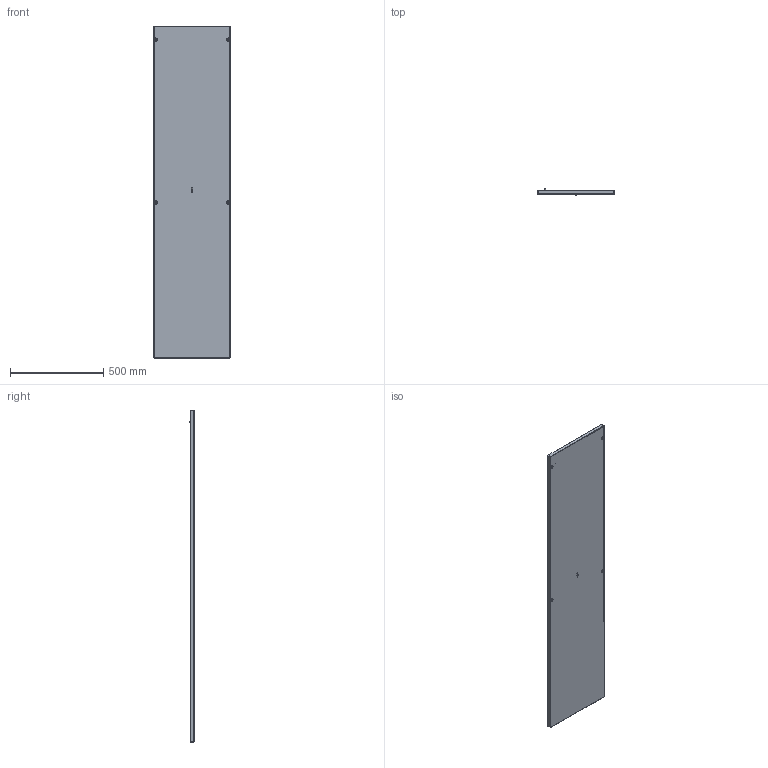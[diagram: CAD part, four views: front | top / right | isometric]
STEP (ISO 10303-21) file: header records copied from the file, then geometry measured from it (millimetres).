
FILE_DESCRIPTION( ( 'Unknown' ), '1' );
FILE_NAME( 'Q:/IME/WEB DRAWINGS/ISP185.stp', 'Unknown', ( 'Unknown' ), ( 'Unknown' ), 'XStep 1.0', 'Unknown', ' ' );
FILE_SCHEMA( ( 'CONFIG_CONTROL_DESIGN' ) );
Length unit declared in the file: millimetre
Products named in the file (3): Assem1; 1; 2
Bounding box: 407.97 x 31.75 x 1776.41 mm (x, y, z)
Volume: 2334633.8 mm3; surface area: 3237728.4 mm2
Topology: 4 solids, 4 shells, 160 faces, 350 edges, 202 vertices
Faces by surface type: plane 60, cylinder 38, torus 30, bspline 16, cone 16
Full cylindrical faces by diameter (mm): 5.537 x4, 6.35 x8, 9.804 x2
Entity records: 2308 total; most frequent: CARTESIAN_POINT 609, DIRECTION 316, ORIENTED_EDGE 274, EDGE_CURVE 137, EDGE_LOOP 124, AXIS2_PLACEMENT_3D 120, FACE_OUTER_BOUND 102, VERTEX_POINT 93
